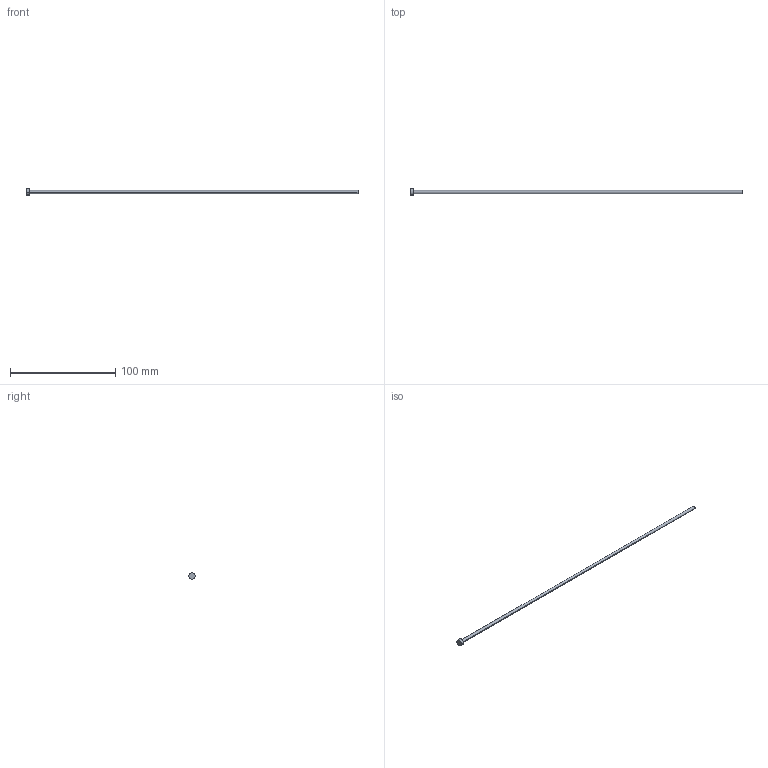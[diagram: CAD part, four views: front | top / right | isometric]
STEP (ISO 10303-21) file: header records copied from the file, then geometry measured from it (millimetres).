
FILE_DESCRIPTION (( 'STEP AP214' ), '1' );
FILE_NAME ('A-3x315.STEP', '2020-05-28T17:38:06', ( 'August' ), ( '' ), 'SwSTEP 2.0', 'SolidWorks 2018', '' );
FILE_SCHEMA (( 'AUTOMOTIVE_DESIGN' ));
Length unit declared in the file: millimetre
Products named in the file (1): A-3x315
Bounding box: 315 x 6 x 6 mm (x, y, z)
Volume: 2290.4 mm3; surface area: 3052.5 mm2
Topology: 1 solids, 1 shells, 9 faces, 16 edges, 10 vertices
Faces by surface type: cylinder 4, plane 3, torus 2
Entity records: 260 total; most frequent: DIRECTION 48, CARTESIAN_POINT 36, ORIENTED_EDGE 32, AXIS2_PLACEMENT_3D 22, EDGE_CURVE 16, CIRCLE 12, VERTEX_POINT 10, EDGE_LOOP 10
